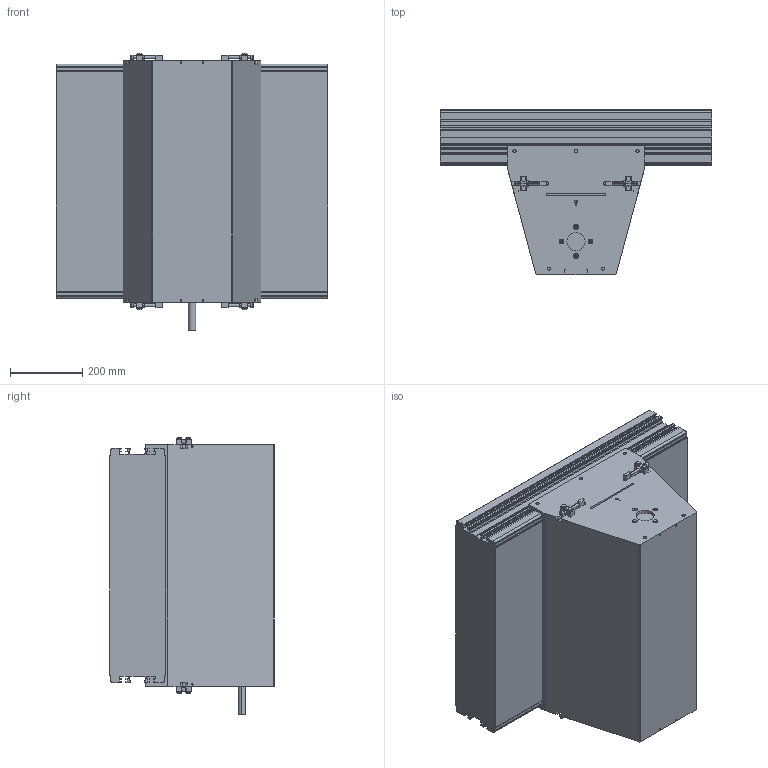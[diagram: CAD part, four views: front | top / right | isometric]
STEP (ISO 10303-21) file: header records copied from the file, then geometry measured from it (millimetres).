
FILE_DESCRIPTION (( 'STEP AP214' ), '1' );
FILE_NAME ('F2 2400 MID.step', '2017-04-05T07:33:20', ( '' ), ( '' ), 'SwSTEP 2.0', 'SolidWorks 2015', '' );
FILE_SCHEMA (( 'AUTOMOTIVE_DESIGN' ));
Length unit declared in the file: millimetre
Products named in the file (1): F2 2400 MID
Bounding box: 750 x 454.7 x 766.4 mm (x, y, z)
Volume: 146562689.6 mm3; surface area: 2858835.5 mm2
Topology: 31 solids, 35 shells, 668 faces, 1655 edges, 1044 vertices
Faces by surface type: plane 351, cylinder 233, cone 68, torus 16
Entity records: 22527 total; most frequent: DIRECTION 3449, CARTESIAN_POINT 3387, ORIENTED_EDGE 3206, EDGE_CURVE 1603, AXIS2_PLACEMENT_3D 1180, LINE 1089, VECTOR 1089, VERTEX_POINT 1044
